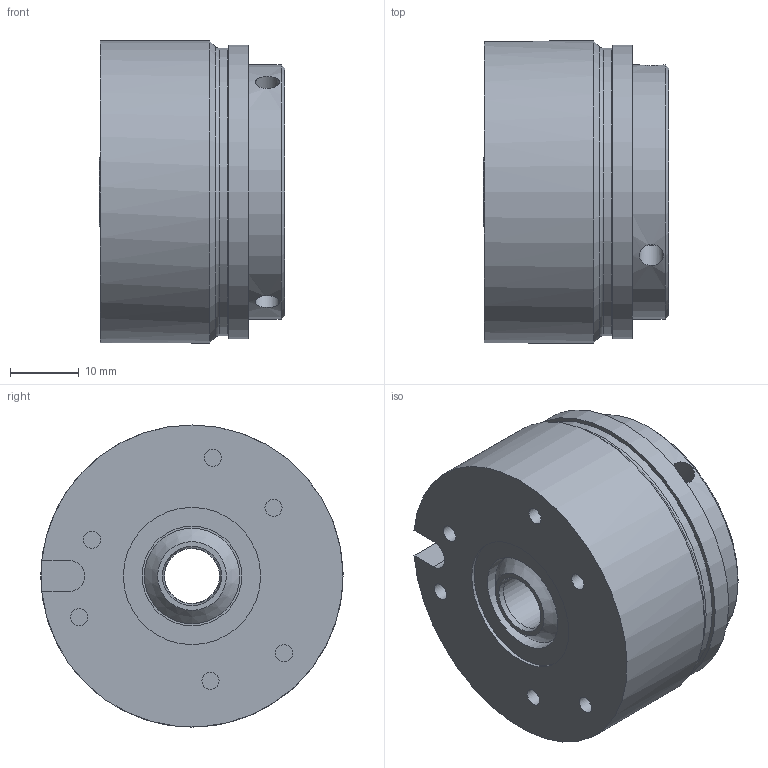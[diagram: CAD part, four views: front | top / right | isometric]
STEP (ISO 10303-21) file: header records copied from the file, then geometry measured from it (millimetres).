
FILE_DESCRIPTION (( 'STEP AP214' ), '1' );
FILE_NAME ('86 61104P00-0001_Index e.STEP', '2019-11-26T13:24:37', ( '' ), ( '' ), 'SwSTEP 2.0', 'SolidWorks 2018', '' );
FILE_SCHEMA (( 'AUTOMOTIVE_DESIGN' ));
Length unit declared in the file: millimetre
Products named in the file (1): 86 61104P00-0001_Index e
Bounding box: 26.95 x 44 x 44 mm (x, y, z)
Volume: 34927.7 mm3; surface area: 11852.5 mm2
Topology: 2 solids, 2 shells, 54 faces, 97 edges, 62 vertices
Faces by surface type: cylinder 25, plane 22, cone 5, torus 2
Full cylindrical faces by diameter (mm): 2.5 x9, 3.5 x3, 8 x1, 8.2 x1, 13.9 x1, 14.5 x1, 18 x1, 20 x1, 34 x1, 37 x1, 41.9 x1, 42.8 x1, 44 x1
Entity records: 1595 total; most frequent: CARTESIAN_POINT 458, DIRECTION 221, ORIENTED_EDGE 132, EDGE_LOOP 109, AXIS2_PLACEMENT_3D 106, FACE_OUTER_BOUND 79, EDGE_CURVE 66, VERTEX_POINT 61
